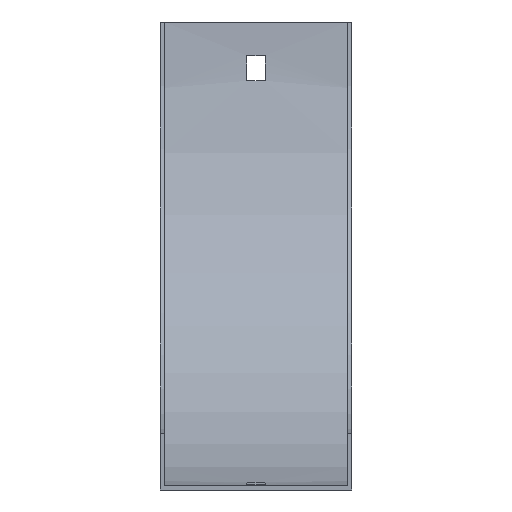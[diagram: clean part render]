
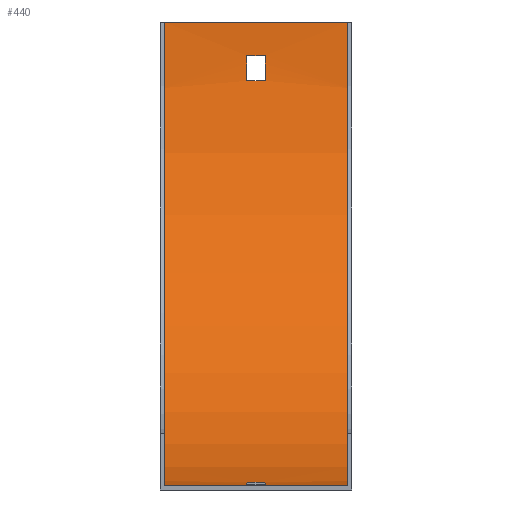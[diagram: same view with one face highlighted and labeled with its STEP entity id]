
A CAD part, front view. The second image highlights one B-rep face of the part: STEP entity #440.
In plain terms, the highlighted cylindrical face has radius 165.5 mm (diameter 331 mm), a partial arc.
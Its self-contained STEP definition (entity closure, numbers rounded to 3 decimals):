
#11 = CARTESIAN_POINT ( 'NONE',  ( -3.25, -1.936, -12. ) ) ;
#19 = DIRECTION ( 'NONE',  ( -1., 0., 0. ) ) ;
#21 = VERTEX_POINT ( 'NONE', #260 ) ;
#28 = CARTESIAN_POINT ( 'NONE',  ( 32.75, -167., -165.5 ) ) ;
#31 = CARTESIAN_POINT ( 'NONE',  ( -32.75, -167., 0. ) ) ;
#33 = CARTESIAN_POINT ( 'NONE',  ( -3.25, -2.838, -21. ) ) ;
#44 = VECTOR ( 'NONE', #499, 1000. ) ;
#46 = VERTEX_POINT ( 'NONE', #171 ) ;
#66 = ORIENTED_EDGE ( 'NONE', *, *, #451, .T. ) ;
#68 = CARTESIAN_POINT ( 'NONE',  ( 34.25, -167., 0. ) ) ;
#70 = DIRECTION ( 'NONE',  ( 0., 0., 1. ) ) ;
#71 = VERTEX_POINT ( 'NONE', #462 ) ;
#72 = CARTESIAN_POINT ( 'NONE',  ( -32.75, -167., -165.5 ) ) ;
#77 = DIRECTION ( 'NONE',  ( 1., 0., 0. ) ) ;
#93 = ORIENTED_EDGE ( 'NONE', *, *, #308, .F. ) ;
#99 = DIRECTION ( 'NONE',  ( 0., 0., 1. ) ) ;
#104 = LINE ( 'NONE', #111, #578 ) ;
#110 = VERTEX_POINT ( 'NONE', #371 ) ;
#111 = CARTESIAN_POINT ( 'NONE',  ( 34.25, -2.838, -21. ) ) ;
#118 = EDGE_CURVE ( 'NONE', #21, #122, #481, .T. ) ;
#121 = VECTOR ( 'NONE', #528, 1000. ) ;
#122 = VERTEX_POINT ( 'NONE', #277 ) ;
#130 = LINE ( 'NONE', #543, #220 ) ;
#140 = EDGE_LOOP ( 'NONE', ( #345, #445, #267, #240 ) ) ;
#141 = CARTESIAN_POINT ( 'NONE',  ( 34.25, -155., -165.064 ) ) ;
#145 = DIRECTION ( 'NONE',  ( -1., 0., 0. ) ) ;
#147 = ORIENTED_EDGE ( 'NONE', *, *, #256, .T. ) ;
#152 = DIRECTION ( 'NONE',  ( 1., 0., 0. ) ) ;
#155 = VERTEX_POINT ( 'NONE', #192 ) ;
#165 = AXIS2_PLACEMENT_3D ( 'NONE', #509, #176, #459 ) ;
#171 = CARTESIAN_POINT ( 'NONE',  ( -3.25, -155., -165.064 ) ) ;
#176 = DIRECTION ( 'NONE',  ( 1., 0., 0. ) ) ;
#180 = CARTESIAN_POINT ( 'NONE',  ( 32.75, -1.5, 0. ) ) ;
#192 = CARTESIAN_POINT ( 'NONE',  ( 3.25, -1.936, -12. ) ) ;
#198 = ORIENTED_EDGE ( 'NONE', *, *, #280, .T. ) ;
#199 = DIRECTION ( 'NONE',  ( 0., 0., 1. ) ) ;
#220 = VECTOR ( 'NONE', #410, 1000. ) ;
#230 = CARTESIAN_POINT ( 'NONE',  ( 32.75, -167., 0. ) ) ;
#240 = ORIENTED_EDGE ( 'NONE', *, *, #507, .T. ) ;
#245 = LINE ( 'NONE', #433, #338 ) ;
#247 = FACE_BOUND ( 'NONE', #431, .T. ) ;
#250 = AXIS2_PLACEMENT_3D ( 'NONE', #31, #77, #70 ) ;
#254 = CARTESIAN_POINT ( 'NONE',  ( -32.75, -1.5, 0. ) ) ;
#256 = EDGE_CURVE ( 'NONE', #110, #71, #245, .T. ) ;
#257 = ORIENTED_EDGE ( 'NONE', *, *, #325, .F. ) ;
#259 = AXIS2_PLACEMENT_3D ( 'NONE', #341, #298, #390 ) ;
#260 = CARTESIAN_POINT ( 'NONE',  ( 32.75, -167., -165.5 ) ) ;
#262 = EDGE_CURVE ( 'NONE', #463, #46, #526, .T. ) ;
#266 = CIRCLE ( 'NONE', #165, 165.5 ) ;
#267 = ORIENTED_EDGE ( 'NONE', *, *, #118, .T. ) ;
#272 = EDGE_LOOP ( 'NONE', ( #296, #66, #147, #198 ) ) ;
#277 = CARTESIAN_POINT ( 'NONE',  ( 32.75, -1.5, 0. ) ) ;
#280 = EDGE_CURVE ( 'NONE', #71, #463, #346, .T. ) ;
#292 = DIRECTION ( 'NONE',  ( -1., 0., 0. ) ) ;
#296 = ORIENTED_EDGE ( 'NONE', *, *, #262, .T. ) ;
#298 = DIRECTION ( 'NONE',  ( 1., 0., 0. ) ) ;
#303 = FACE_OUTER_BOUND ( 'NONE', #140, .T. ) ;
#308 = EDGE_CURVE ( 'NONE', #605, #496, #415, .T. ) ;
#311 = CIRCLE ( 'NONE', #250, 165.5 ) ;
#315 = AXIS2_PLACEMENT_3D ( 'NONE', #564, #292, #480 ) ;
#325 = EDGE_CURVE ( 'NONE', #496, #538, #104, .T. ) ;
#338 = VECTOR ( 'NONE', #152, 1000. ) ;
#341 = CARTESIAN_POINT ( 'NONE',  ( -3.25, -167., 0. ) ) ;
#344 = DIRECTION ( 'NONE',  ( 0., 0., 1. ) ) ;
#345 = ORIENTED_EDGE ( 'NONE', *, *, #392, .F. ) ;
#346 = CIRCLE ( 'NONE', #315, 165.5 ) ;
#351 = AXIS2_PLACEMENT_3D ( 'NONE', #68, #542, #344 ) ;
#371 = CARTESIAN_POINT ( 'NONE',  ( -3.25, -146., -164.162 ) ) ;
#379 = CARTESIAN_POINT ( 'NONE',  ( -3.25, -167., 0. ) ) ;
#390 = DIRECTION ( 'NONE',  ( 0., 0., -1. ) ) ;
#392 = EDGE_CURVE ( 'NONE', #479, #483, #311, .T. ) ;
#394 = EDGE_CURVE ( 'NONE', #21, #479, #439, .T. ) ;
#404 = CARTESIAN_POINT ( 'NONE',  ( 3.25, -2.838, -21. ) ) ;
#405 = CIRCLE ( 'NONE', #259, 165.5 ) ;
#410 = DIRECTION ( 'NONE',  ( -1., 0., 0. ) ) ;
#415 = CIRCLE ( 'NONE', #537, 165.5 ) ;
#416 = DIRECTION ( 'NONE',  ( 1., 0., 0. ) ) ;
#419 = ORIENTED_EDGE ( 'NONE', *, *, #532, .F. ) ;
#431 = EDGE_LOOP ( 'NONE', ( #93, #419, #514, #257 ) ) ;
#433 = CARTESIAN_POINT ( 'NONE',  ( 34.25, -146., -164.162 ) ) ;
#439 = LINE ( 'NONE', #28, #575 ) ;
#440 = ADVANCED_FACE ( 'NONE', ( #247, #303, #585 ), #497, .F. ) ;
#445 = ORIENTED_EDGE ( 'NONE', *, *, #394, .F. ) ;
#450 = AXIS2_PLACEMENT_3D ( 'NONE', #230, #517, #99 ) ;
#451 = EDGE_CURVE ( 'NONE', #46, #110, #405, .T. ) ;
#457 = LINE ( 'NONE', #180, #44 ) ;
#459 = DIRECTION ( 'NONE',  ( 0., 0., -1. ) ) ;
#462 = CARTESIAN_POINT ( 'NONE',  ( 3.25, -146., -164.162 ) ) ;
#463 = VERTEX_POINT ( 'NONE', #583 ) ;
#479 = VERTEX_POINT ( 'NONE', #72 ) ;
#480 = DIRECTION ( 'NONE',  ( 0., 0., 1. ) ) ;
#481 = CIRCLE ( 'NONE', #450, 165.5 ) ;
#483 = VERTEX_POINT ( 'NONE', #254 ) ;
#492 = EDGE_CURVE ( 'NONE', #538, #155, #266, .T. ) ;
#496 = VERTEX_POINT ( 'NONE', #33 ) ;
#497 = CYLINDRICAL_SURFACE ( 'NONE', #351, 165.5 ) ;
#499 = DIRECTION ( 'NONE',  ( -1., 0., 0. ) ) ;
#507 = EDGE_CURVE ( 'NONE', #122, #483, #457, .T. ) ;
#509 = CARTESIAN_POINT ( 'NONE',  ( 3.25, -167., 0. ) ) ;
#514 = ORIENTED_EDGE ( 'NONE', *, *, #492, .F. ) ;
#517 = DIRECTION ( 'NONE',  ( 1., 0., 0. ) ) ;
#526 = LINE ( 'NONE', #141, #121 ) ;
#528 = DIRECTION ( 'NONE',  ( -1., 0., 0. ) ) ;
#532 = EDGE_CURVE ( 'NONE', #155, #605, #130, .T. ) ;
#537 = AXIS2_PLACEMENT_3D ( 'NONE', #379, #145, #199 ) ;
#538 = VERTEX_POINT ( 'NONE', #404 ) ;
#542 = DIRECTION ( 'NONE',  ( -1., 0., 0. ) ) ;
#543 = CARTESIAN_POINT ( 'NONE',  ( 34.25, -1.936, -12. ) ) ;
#564 = CARTESIAN_POINT ( 'NONE',  ( 3.25, -167., 0. ) ) ;
#575 = VECTOR ( 'NONE', #19, 1000. ) ;
#578 = VECTOR ( 'NONE', #416, 1000. ) ;
#583 = CARTESIAN_POINT ( 'NONE',  ( 3.25, -155., -165.064 ) ) ;
#585 = FACE_BOUND ( 'NONE', #272, .T. ) ;
#605 = VERTEX_POINT ( 'NONE', #11 ) ;
